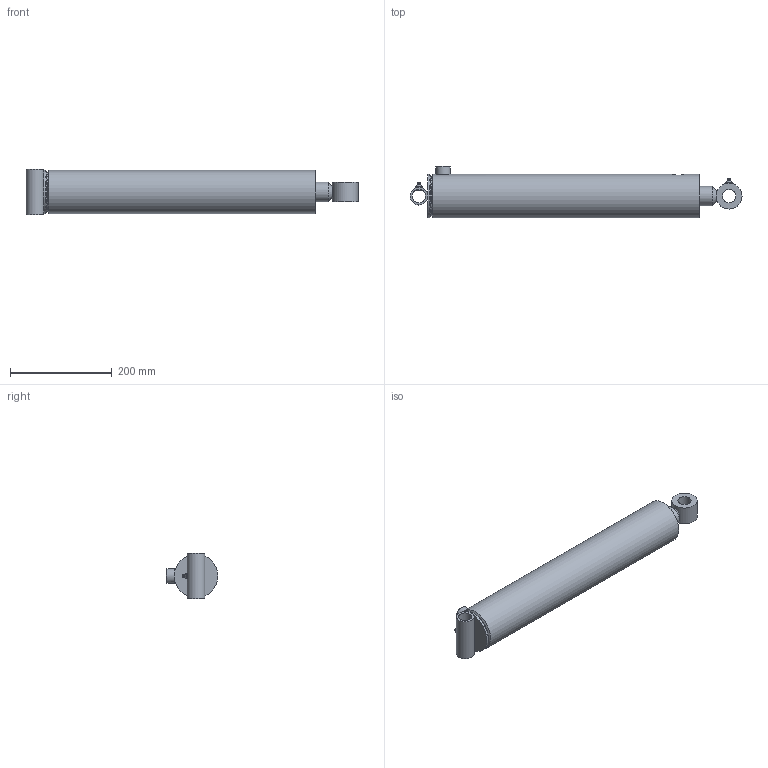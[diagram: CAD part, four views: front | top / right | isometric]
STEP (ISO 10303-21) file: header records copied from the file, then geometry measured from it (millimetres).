
FILE_DESCRIPTION((''),'2;1');
FILE_NAME('\\SRVR-ENG\EngSales\PMC-8316.stp','2013-04-01T14:03:02',('KneiflD'),(''),'Autodesk Inventor 2012','Autodesk Inventor 2012','');
FILE_SCHEMA(('AUTOMOTIVE_DESIGN { 1 0 10303 214 1 1 1 1 }'));
Length unit declared in the file: inch
Products named in the file (15): PMC-8316; 061500049; 051500067; 161500007V; 210400412V; 200014403; 081500401V; 020800282; 010800813; 210400528V; 071500021V; 220000210; 230001300V; 200018003V; 270010002V
Assembly tree (16 placements, depth 3):
  PMC-8316
    061500049
      051500067
      161500007V
      210400412V
      200014403
    081500401V
    020800282
      010800813
      210400528V
    071500021V
    220000210
    230001300V
    200018003V  x2
    270010002V  x2
Bounding box: 652.45 x 101.85 x 88.9 mm (x, y, z)
Volume: 1668588.1 mm3; surface area: 453435.6 mm2
Topology: 14 solids, 14 shells, 197 faces, 407 edges, 248 vertices
Faces by surface type: plane 94, cylinder 53, cone 31, torus 13, bspline 4, sphere 2
Full cylindrical faces by diameter (mm): 1.524 x2, 2.794 x2, 5.486 x1, 8.839 x1, 9.08 x2, 12.7 x1, 17.463 x1, 17.475 x1, 23.444 x1, 23.813 x1, 25.349 x1, 25.476 x1, 25.908 x1, 26.162 x1, 27.94 x1, 28.575 x1, 34.925 x1, 38.1 x1, 38.176 x2, 41.91 x1, 46.025 x1, 47.625 x1, 49.2 x1, 50.8 x1, 55.55 x1, 59.69 x1, 66.802 x1, 67.564 x1, 68.072 x1, 71.425 x1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
Entity records: 4741 total; most frequent: CARTESIAN_POINT 1269, DIRECTION 697, ORIENTED_EDGE 456, AXIS2_PLACEMENT_3D 321, EDGE_LOOP 283, EDGE_CURVE 228, VERTEX_POINT 183, FACE_OUTER_BOUND 162
